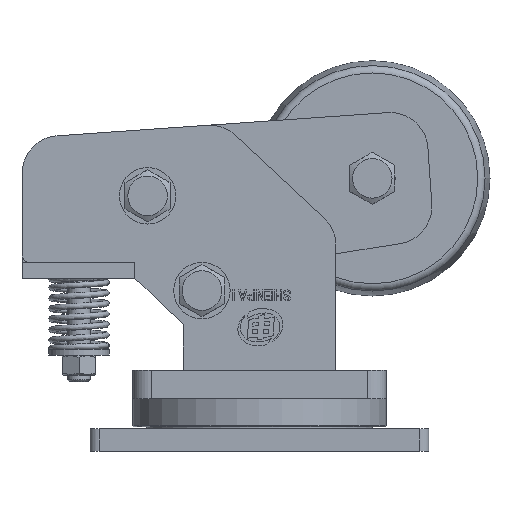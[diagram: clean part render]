
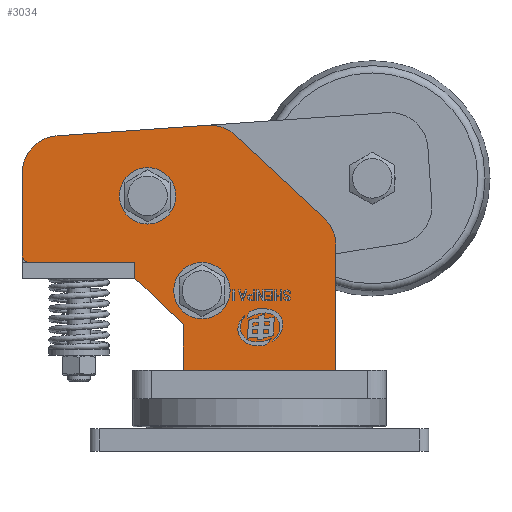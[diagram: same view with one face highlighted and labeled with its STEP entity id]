
A CAD part, front view. The second image highlights one B-rep face of the part: STEP entity #3034.
In plain terms, the highlighted planar face has unit normal (0, -1, 0).
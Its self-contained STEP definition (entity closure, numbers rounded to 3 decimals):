
#1712=LINE('',#22920,#2322);
#1713=LINE('',#22923,#2323);
#1714=LINE('',#22927,#2324);
#1715=LINE('',#22931,#2325);
#1716=LINE('',#22935,#2326);
#1717=LINE('',#22939,#2327);
#1718=LINE('',#22941,#2328);
#1719=LINE('',#22943,#2329);
#1720=LINE('',#22945,#2330);
#2322=VECTOR('',#13255,1.);
#2323=VECTOR('',#13256,1.);
#2324=VECTOR('',#13259,1.);
#2325=VECTOR('',#13262,1.);
#2326=VECTOR('',#13265,1.);
#2327=VECTOR('',#13268,1.);
#2328=VECTOR('',#13269,1.);
#2329=VECTOR('',#13270,1.);
#2330=VECTOR('',#13271,1.);
#3034=ADVANCED_FACE('',(#4122,#4123,#4124),#3523,.T.);
#3523=PLANE('',#11331);
#4122=FACE_BOUND('',#4798,.T.);
#4123=FACE_BOUND('',#4799,.T.);
#4124=FACE_BOUND('',#4800,.T.);
#4798=EDGE_LOOP('',(#6502,#6503,#6504,#6505,#6506,#6507,#6508,#6509,#6510,
#6511,#6512,#6513,#6514));
#4799=EDGE_LOOP('',(#6515));
#4800=EDGE_LOOP('',(#6516));
#6502=ORIENTED_EDGE('',*,*,#9576,.F.);
#6503=ORIENTED_EDGE('',*,*,#9577,.T.);
#6504=ORIENTED_EDGE('',*,*,#9578,.T.);
#6505=ORIENTED_EDGE('',*,*,#9579,.T.);
#6506=ORIENTED_EDGE('',*,*,#9580,.T.);
#6507=ORIENTED_EDGE('',*,*,#9581,.T.);
#6508=ORIENTED_EDGE('',*,*,#9582,.T.);
#6509=ORIENTED_EDGE('',*,*,#9583,.T.);
#6510=ORIENTED_EDGE('',*,*,#9584,.T.);
#6511=ORIENTED_EDGE('',*,*,#9585,.T.);
#6512=ORIENTED_EDGE('',*,*,#9586,.T.);
#6513=ORIENTED_EDGE('',*,*,#9587,.T.);
#6514=ORIENTED_EDGE('',*,*,#9588,.T.);
#6515=ORIENTED_EDGE('',*,*,#9589,.F.);
#6516=ORIENTED_EDGE('',*,*,#9590,.F.);
#8406=VERTEX_POINT('',#22921);
#8407=VERTEX_POINT('',#22922);
#8408=VERTEX_POINT('',#22924);
#8409=VERTEX_POINT('',#22926);
#8410=VERTEX_POINT('',#22928);
#8411=VERTEX_POINT('',#22930);
#8412=VERTEX_POINT('',#22932);
#8413=VERTEX_POINT('',#22934);
#8414=VERTEX_POINT('',#22936);
#8415=VERTEX_POINT('',#22938);
#8416=VERTEX_POINT('',#22940);
#8417=VERTEX_POINT('',#22942);
#8418=VERTEX_POINT('',#22944);
#8419=VERTEX_POINT('',#22947);
#8420=VERTEX_POINT('',#22949);
#9576=EDGE_CURVE('',#8406,#8407,#1712,.T.);
#9577=EDGE_CURVE('',#8406,#8408,#1713,.T.);
#9578=EDGE_CURVE('',#8408,#8409,#10569,.T.);
#9579=EDGE_CURVE('',#8409,#8410,#1714,.T.);
#9580=EDGE_CURVE('',#8410,#8411,#10570,.T.);
#9581=EDGE_CURVE('',#8411,#8412,#1715,.T.);
#9582=EDGE_CURVE('',#8412,#8413,#10571,.T.);
#9583=EDGE_CURVE('',#8413,#8414,#1716,.T.);
#9584=EDGE_CURVE('',#8414,#8415,#10572,.T.);
#9585=EDGE_CURVE('',#8415,#8416,#1717,.T.);
#9586=EDGE_CURVE('',#8416,#8417,#1718,.T.);
#9587=EDGE_CURVE('',#8417,#8418,#1719,.T.);
#9588=EDGE_CURVE('',#8418,#8407,#1720,.T.);
#9589=EDGE_CURVE('',#8419,#8419,#10573,.T.);
#9590=EDGE_CURVE('',#8420,#8420,#10574,.T.);
#10569=CIRCLE('',#11325,20.);
#10570=CIRCLE('',#11326,20.);
#10571=CIRCLE('',#11327,20.);
#10572=CIRCLE('',#11328,4.);
#10573=CIRCLE('',#11329,8.15);
#10574=CIRCLE('',#11330,8.15);
#11325=AXIS2_PLACEMENT_3D('',#22925,#13257,#13258);
#11326=AXIS2_PLACEMENT_3D('',#22929,#13260,#13261);
#11327=AXIS2_PLACEMENT_3D('',#22933,#13263,#13264);
#11328=AXIS2_PLACEMENT_3D('',#22937,#13266,#13267);
#11329=AXIS2_PLACEMENT_3D('',#22946,#13272,#13273);
#11330=AXIS2_PLACEMENT_3D('',#22948,#13274,#13275);
#11331=AXIS2_PLACEMENT_3D('',#22950,#13276,#13277);
#13255=DIRECTION('',(-1.,0.,0.));
#13256=DIRECTION('',(0.,0.,1.));
#13257=DIRECTION('',(0.,-1.,0.));
#13258=DIRECTION('',(1.,0.,0.));
#13259=DIRECTION('',(-0.731,0.,0.682));
#13260=DIRECTION('',(0.,-1.,0.));
#13261=DIRECTION('',(1.,0.,0.));
#13262=DIRECTION('',(-0.998,0.,-0.07));
#13263=DIRECTION('',(0.,-1.,0.));
#13264=DIRECTION('',(1.,0.,0.));
#13265=DIRECTION('',(0.,0.,-1.));
#13266=DIRECTION('',(0.,-1.,0.));
#13267=DIRECTION('',(0.,0.,-1.));
#13268=DIRECTION('',(1.,0.,0.));
#13269=DIRECTION('',(0.,0.,-1.));
#13270=DIRECTION('',(0.719,0.,-0.695));
#13271=DIRECTION('',(0.,0.,-1.));
#13272=DIRECTION('',(0.,-1.,0.));
#13273=DIRECTION('',(1.,0.,0.));
#13274=DIRECTION('',(0.,-1.,0.));
#13275=DIRECTION('',(1.,0.,0.));
#13276=DIRECTION('',(0.,-1.,0.));
#13277=DIRECTION('',(0.,0.,-1.));
#22920=CARTESIAN_POINT('',(20.55,-273.5,43.));
#22921=CARTESIAN_POINT('',(40.55,-273.5,43.));
#22922=CARTESIAN_POINT('',(-40.55,-273.5,43.));
#22923=CARTESIAN_POINT('',(40.55,-273.5,38.278));
#22924=CARTESIAN_POINT('',(40.55,-273.5,109.578));
#22925=CARTESIAN_POINT('',(20.55,-273.5,109.578));
#22926=CARTESIAN_POINT('',(34.19,-273.5,124.205));
#22927=CARTESIAN_POINT('',(34.19,-273.5,124.205));
#22928=CARTESIAN_POINT('',(-12.641,-273.5,167.876));
#22929=CARTESIAN_POINT('',(-26.281,-273.5,153.249));
#22930=CARTESIAN_POINT('',(-27.676,-273.5,173.2));
#22931=CARTESIAN_POINT('',(-27.676,-273.5,173.2));
#22932=CARTESIAN_POINT('',(-107.545,-273.5,167.615));
#22933=CARTESIAN_POINT('',(-106.15,-273.5,147.664));
#22934=CARTESIAN_POINT('',(-126.15,-273.5,147.664));
#22935=CARTESIAN_POINT('',(-126.15,-273.5,147.664));
#22936=CARTESIAN_POINT('',(-126.15,-273.5,104.5));
#22937=CARTESIAN_POINT('',(-122.15,-273.5,104.5));
#22938=CARTESIAN_POINT('',(-122.15,-273.5,100.5));
#22939=CARTESIAN_POINT('',(-126.15,-273.5,100.5));
#22940=CARTESIAN_POINT('',(-66.15,-273.5,100.5));
#22941=CARTESIAN_POINT('',(-66.15,-273.5,100.5));
#22942=CARTESIAN_POINT('',(-66.15,-273.5,92.));
#22943=CARTESIAN_POINT('',(-66.15,-273.5,92.));
#22944=CARTESIAN_POINT('',(-40.55,-273.5,67.278));
#22945=CARTESIAN_POINT('',(-40.55,-273.5,67.278));
#22946=CARTESIAN_POINT('',(-59.45,-273.5,135.7));
#22947=CARTESIAN_POINT('',(-51.3,-273.5,135.7));
#22948=CARTESIAN_POINT('',(-30.55,-273.5,85.4));
#22949=CARTESIAN_POINT('',(-22.4,-273.5,85.4));
#22950=CARTESIAN_POINT('',(20.55,-273.5,109.578));
